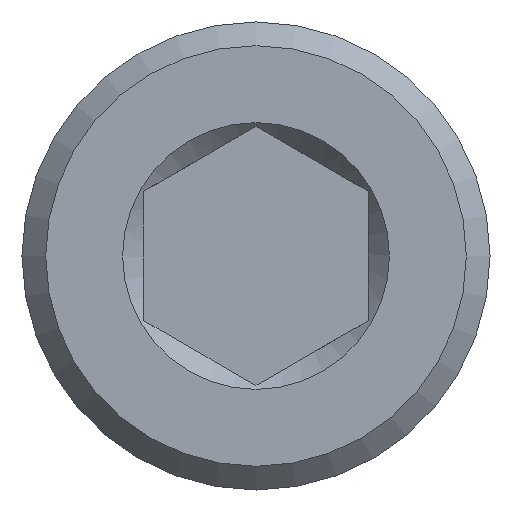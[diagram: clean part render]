
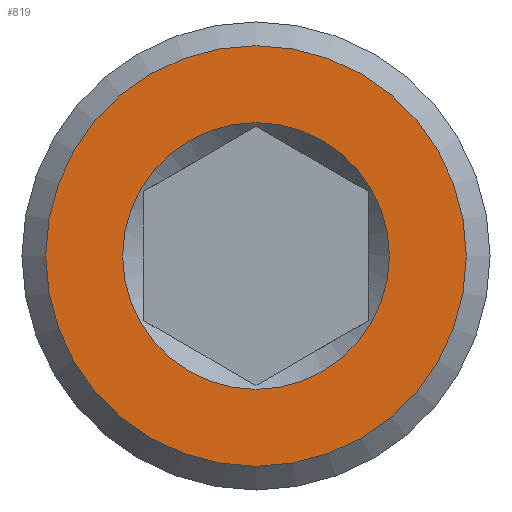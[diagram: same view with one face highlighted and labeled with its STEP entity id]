
A CAD part, front view. The second image highlights one B-rep face of the part: STEP entity #819.
In plain terms, the highlighted planar face has unit normal (0, -1, 0).
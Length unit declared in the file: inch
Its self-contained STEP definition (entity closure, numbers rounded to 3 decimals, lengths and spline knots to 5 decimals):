
#21=FACE_BOUND('',#177,.T.);
#80=CIRCLE('',#907,0.371);
#81=CIRCLE('',#909,0.585);
#127=FACE_OUTER_BOUND('',#176,.T.);
#176=EDGE_LOOP('',(#712));
#177=EDGE_LOOP('',(#713));
#380=VERTEX_POINT('',#1749);
#381=VERTEX_POINT('',#1753);
#495=EDGE_CURVE('',#380,#380,#80,.T.);
#496=EDGE_CURVE('',#381,#381,#81,.T.);
#712=ORIENTED_EDGE('',*,*,#496,.F.);
#713=ORIENTED_EDGE('',*,*,#495,.F.);
#778=PLANE('',#908);
#819=ADVANCED_FACE('',(#127,#21),#778,.T.);
#907=AXIS2_PLACEMENT_3D('',#1751,#1092,#1093);
#908=AXIS2_PLACEMENT_3D('',#1752,#1094,#1095);
#909=AXIS2_PLACEMENT_3D('',#1754,#1096,#1097);
#1092=DIRECTION('center_axis',(0.,-1.,0.));
#1093=DIRECTION('ref_axis',(0.,0.,1.));
#1094=DIRECTION('center_axis',(0.,-1.,0.));
#1095=DIRECTION('ref_axis',(0.,0.,-1.));
#1096=DIRECTION('center_axis',(0.,1.,0.));
#1097=DIRECTION('ref_axis',(0.,0.,1.));
#1749=CARTESIAN_POINT('',(0.,0.,-0.371));
#1751=CARTESIAN_POINT('Origin',(0.,0.,0.));
#1752=CARTESIAN_POINT('Origin',(0.,0.,-0.311));
#1753=CARTESIAN_POINT('',(0.,0.,-0.585));
#1754=CARTESIAN_POINT('Origin',(0.,0.,0.));
